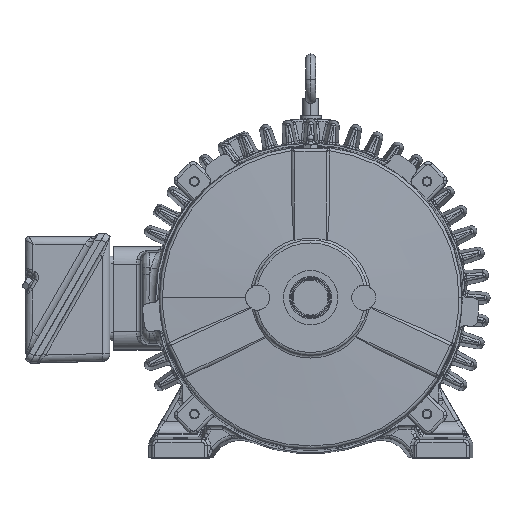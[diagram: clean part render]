
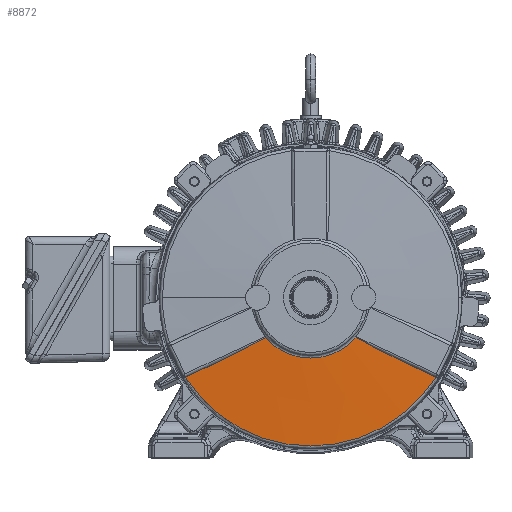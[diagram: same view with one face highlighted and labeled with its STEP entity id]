
A CAD part, top view. The second image highlights one B-rep face of the part: STEP entity #8872.
In plain terms, the highlighted conical face has half-angle 87 degrees and reference radius 123.099 mm.
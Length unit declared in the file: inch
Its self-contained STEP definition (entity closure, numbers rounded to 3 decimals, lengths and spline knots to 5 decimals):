
#3971 = CARTESIAN_POINT ( 'NONE',  ( 4.09424, -2.59327, 16.91814 ) ) ;
#4363 = ORIENTED_EDGE ( 'NONE', *, *, #91922, .F. ) ;
#5299 = B_SPLINE_CURVE_WITH_KNOTS ( 'NONE', 3,
 ( #11840, #81969, #105762, #9496, #13717, #49406, #75019, #110711, #39507, #58211, #5594, #13350, #31100, #21446, #12965, #83062 ),
 .UNSPECIFIED., .F., .F.,
 ( 4, 2, 2, 2, 2, 2, 2, 4 ),
 ( 0., 0.01174, 0.02347, 0.03521, 0.04107, 0.04401, 0.04547, 0.04694 ),
 .UNSPECIFIED. ) ;
#5594 = CARTESIAN_POINT ( 'NONE',  ( 1.61266, -1.37999, 17.06089 ) ) ;
#6500 = CARTESIAN_POINT ( 'NONE',  ( -2.42958, -1.80844, 17.01341 ) ) ;
#8872 = ADVANCED_FACE ( 'NONE', ( #64197 ), #98502, .T. ) ;
#9496 = CARTESIAN_POINT ( 'NONE',  ( 2.56768, -1.87609, 17.00548 ) ) ;
#11361 = DIRECTION ( 'NONE',  ( 0., 0., -1. ) ) ;
#11840 = CARTESIAN_POINT ( 'NONE',  ( 3.12317, -2.14045, 16.9737 ) ) ;
#12965 = CARTESIAN_POINT ( 'NONE',  ( 1.49787, -1.30956, 17.06786 ) ) ;
#13350 = CARTESIAN_POINT ( 'NONE',  ( 1.56313, -1.35042, 17.06387 ) ) ;
#13717 = CARTESIAN_POINT ( 'NONE',  ( 2.42956, -1.80843, 17.01341 ) ) ;
#14241 = CARTESIAN_POINT ( 'NONE',  ( -4.09424, -2.59327, 16.91814 ) ) ;
#15151 = B_SPLINE_CURVE_WITH_KNOTS ( 'NONE', 3,
 ( #110676, #66917, #101423, #94107 ),
 .UNSPECIFIED., .F., .F.,
 ( 4, 4 ),
 ( 0.05384, 0.08109 ),
 .UNSPECIFIED. ) ;
#17639 = B_SPLINE_CURVE_WITH_KNOTS ( 'NONE', 3,
 ( #69874, #78262, #44291, #25836 ),
 .UNSPECIFIED., .F., .F.,
 ( 4, 4 ),
 ( 0.10548, 0.13272 ),
 .UNSPECIFIED. ) ;
#21446 = CARTESIAN_POINT ( 'NONE',  ( 1.51407, -1.31999, 17.06686 ) ) ;
#22665 = VERTEX_POINT ( 'NONE', #81398 ) ;
#23830 = CARTESIAN_POINT ( 'NONE',  ( -2.8448, -2.00961, 16.9896 ) ) ;
#25836 = CARTESIAN_POINT ( 'NONE',  ( 4.09424, -2.59327, 16.91814 ) ) ;
#27541 = DIRECTION ( 'NONE',  ( 0., 0., 1. ) ) ;
#30013 = AXIS2_PLACEMENT_3D ( 'NONE', #80211, #96703, #87485 ) ;
#31100 = CARTESIAN_POINT ( 'NONE',  ( 1.54669, -1.34042, 17.06487 ) ) ;
#32335 = CARTESIAN_POINT ( 'NONE',  ( -2.56771, -1.87611, 17.00547 ) ) ;
#32715 = CARTESIAN_POINT ( 'NONE',  ( -1.81396, -1.49246, 17.04902 ) ) ;
#33089 = CARTESIAN_POINT ( 'NONE',  ( -1.54659, -1.34036, 17.06487 ) ) ;
#33418 = ORIENTED_EDGE ( 'NONE', *, *, #40868, .T. ) ;
#34272 = VERTEX_POINT ( 'NONE', #40664 ) ;
#36517 = VERTEX_POINT ( 'NONE', #61138 ) ;
#38590 = EDGE_LOOP ( 'NONE', ( #104161, #106696, #96593, #90153, #4363, #33418 ) ) ;
#38803 = VERTEX_POINT ( 'NONE', #14241 ) ;
#39507 = CARTESIAN_POINT ( 'NONE',  ( 1.74639, -1.45582, 17.05298 ) ) ;
#40664 = CARTESIAN_POINT ( 'NONE',  ( -3.12317, -2.14045, 16.9737 ) ) ;
#40794 = CARTESIAN_POINT ( 'NONE',  ( -1.61253, -1.37992, 17.0609 ) ) ;
#40868 = EDGE_CURVE ( 'NONE', #38803, #68975, #43082, .T. ) ;
#43082 = CIRCLE ( 'NONE', #111435, 4.84642 ) ;
#44291 = CARTESIAN_POINT ( 'NONE',  ( 3.77055, -2.44233, 16.9367 ) ) ;
#47482 = CARTESIAN_POINT ( 'NONE',  ( 0., 0., 16.91814 ) ) ;
#47670 = EDGE_CURVE ( 'NONE', #59481, #36517, #5299, .T. ) ;
#47793 = CARTESIAN_POINT ( 'NONE',  ( 3.12317, -2.14045, 16.9737 ) ) ;
#49406 = CARTESIAN_POINT ( 'NONE',  ( 2.15452, -1.67071, 17.02925 ) ) ;
#49560 = CARTESIAN_POINT ( 'NONE',  ( -1.64588, -1.39911, 17.05892 ) ) ;
#50303 = CARTESIAN_POINT ( 'NONE',  ( -1.49783, -1.30953, 17.06786 ) ) ;
#50674 = CARTESIAN_POINT ( 'NONE',  ( -2.01761, -1.60076, 17.03716 ) ) ;
#53241 = DIRECTION ( 'NONE',  ( 1., 0., 0. ) ) ;
#58211 = CARTESIAN_POINT ( 'NONE',  ( 1.64597, -1.39916, 17.05891 ) ) ;
#59092 = CARTESIAN_POINT ( 'NONE',  ( -2.15455, -1.67072, 17.02925 ) ) ;
#59481 = VERTEX_POINT ( 'NONE', #47793 ) ;
#59839 = CARTESIAN_POINT ( 'NONE',  ( -3.12317, -2.14045, 16.9737 ) ) ;
#61138 = CARTESIAN_POINT ( 'NONE',  ( 1.48192, -1.29869, 17.06886 ) ) ;
#64197 = FACE_OUTER_BOUND ( 'NONE', #38590, .T. ) ;
#66917 = CARTESIAN_POINT ( 'NONE',  ( -3.77055, -2.44233, 16.9367 ) ) ;
#68975 = VERTEX_POINT ( 'NONE', #3971 ) ;
#69874 = CARTESIAN_POINT ( 'NONE',  ( 3.12317, -2.14045, 16.9737 ) ) ;
#75019 = CARTESIAN_POINT ( 'NONE',  ( 2.01755, -1.60073, 17.03717 ) ) ;
#76653 = CARTESIAN_POINT ( 'NONE',  ( -1.56301, -1.35035, 17.06388 ) ) ;
#78262 = CARTESIAN_POINT ( 'NONE',  ( 3.44686, -2.29139, 16.95524 ) ) ;
#80211 = CARTESIAN_POINT ( 'NONE',  ( 0., 0., 17.06886 ) ) ;
#81398 = CARTESIAN_POINT ( 'NONE',  ( -1.48192, -1.29869, 17.06886 ) ) ;
#81969 = CARTESIAN_POINT ( 'NONE',  ( 2.98378, -2.07545, 16.98165 ) ) ;
#82163 = EDGE_CURVE ( 'NONE', #59481, #68975, #17639, .T. ) ;
#83062 = CARTESIAN_POINT ( 'NONE',  ( 1.48192, -1.29869, 17.06886 ) ) ;
#85057 = CARTESIAN_POINT ( 'NONE',  ( -1.74636, -1.45581, 17.05298 ) ) ;
#87485 = DIRECTION ( 'NONE',  ( 1., 0., 0. ) ) ;
#89006 = EDGE_CURVE ( 'NONE', #22665, #34272, #90386, .T. ) ;
#90153 = ORIENTED_EDGE ( 'NONE', *, *, #89006, .T. ) ;
#90386 = B_SPLINE_CURVE_WITH_KNOTS ( 'NONE', 3,
 ( #93143, #50303, #111602, #33089, #76653, #40794, #49560, #85057, #32715, #50674, #59092, #6500, #32335, #23830, #93517, #59839 ),
 .UNSPECIFIED., .F., .F.,
 ( 4, 2, 2, 2, 2, 2, 2, 4 ),
 ( 0., 0.00147, 0.00293, 0.00587, 0.01174, 0.02347, 0.03521, 0.04694 ),
 .UNSPECIFIED. ) ;
#91922 = EDGE_CURVE ( 'NONE', #38803, #34272, #15151, .T. ) ;
#93143 = CARTESIAN_POINT ( 'NONE',  ( -1.48192, -1.29869, 17.06886 ) ) ;
#93517 = CARTESIAN_POINT ( 'NONE',  ( -2.98378, -2.07545, 16.98165 ) ) ;
#94107 = CARTESIAN_POINT ( 'NONE',  ( -3.12317, -2.14045, 16.9737 ) ) ;
#96593 = ORIENTED_EDGE ( 'NONE', *, *, #111571, .F. ) ;
#96703 = DIRECTION ( 'NONE',  ( 0., 0., 1. ) ) ;
#98502 = CONICAL_SURFACE ( 'NONE', #113330, 4.84642, 1.518 ) ;
#100271 = DIRECTION ( 'NONE',  ( -1., 0., 0. ) ) ;
#101423 = CARTESIAN_POINT ( 'NONE',  ( -3.44686, -2.29139, 16.95524 ) ) ;
#104018 = CIRCLE ( 'NONE', #30013, 1.97045 ) ;
#104161 = ORIENTED_EDGE ( 'NONE', *, *, #82163, .F. ) ;
#105762 = CARTESIAN_POINT ( 'NONE',  ( 2.84478, -2.00961, 16.9896 ) ) ;
#106696 = ORIENTED_EDGE ( 'NONE', *, *, #47670, .T. ) ;
#106848 = CARTESIAN_POINT ( 'NONE',  ( 0., 0., 16.91814 ) ) ;
#110676 = CARTESIAN_POINT ( 'NONE',  ( -4.09424, -2.59327, 16.91814 ) ) ;
#110711 = CARTESIAN_POINT ( 'NONE',  ( 1.81396, -1.49246, 17.04903 ) ) ;
#111435 = AXIS2_PLACEMENT_3D ( 'NONE', #106848, #27541, #53241 ) ;
#111571 = EDGE_CURVE ( 'NONE', #22665, #36517, #104018, .T. ) ;
#111602 = CARTESIAN_POINT ( 'NONE',  ( -1.514, -1.31994, 17.06686 ) ) ;
#113330 = AXIS2_PLACEMENT_3D ( 'NONE', #47482, #11361, #100271 ) ;
